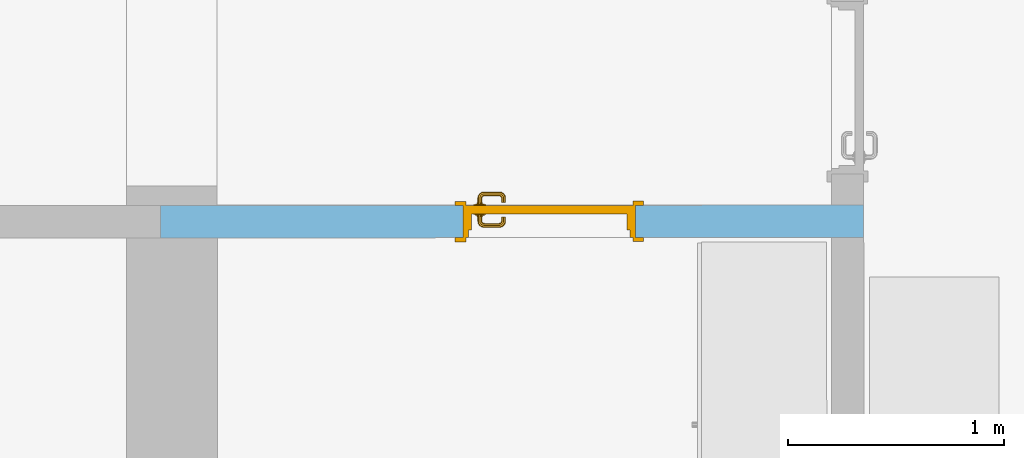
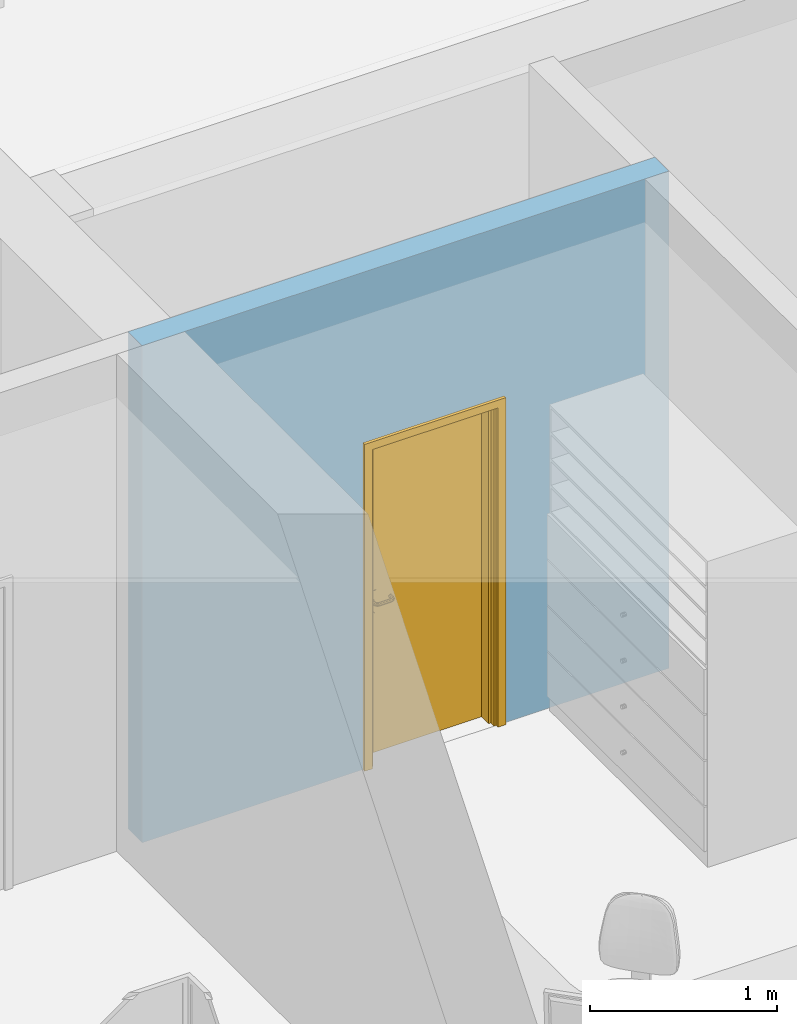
# One storey, part 64 of 194: 1 door, 1 opening, plus 1 element that does not belong to this part.
"""IFC2X3 building model written with IfcOpenShell, lengths in millimetres."""

from ifc_helpers import new_model, entity, si_unit, converted_unit, derived_unit, money_unit, direction, frame, origin_with_axes, origin_2d_with_axis, place, context, subcontext, project, spatial, polyline, rectangle, outline, extrude, open_shell, faceted_brep, surface_model, material, layer, layer_set, layer_usage, type_object, element, fill, save


model = new_model("IFC2X3")

# Units and contexts
model_context = context("Model", 3, precision=1e-05, world=origin_with_axes(), true_north=direction((0.0, 1.0)))
body_context = subcontext(model_context, "Body", "Model", "MODEL_VIEW")
ifc_project = project(units=[si_unit("LENGTHUNIT", "METRE", prefix="MILLI"), si_unit("AREAUNIT", "SQUARE_METRE"), si_unit("VOLUMEUNIT", "CUBIC_METRE"), converted_unit("PLANEANGLEUNIT", "DEGREE", entity("IfcPlaneAngleMeasure", 0.0174532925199), si_unit("PLANEANGLEUNIT", "RADIAN"), dimensions=[0, 0, 0, 0, 0, 0, 0]), si_unit("SOLIDANGLEUNIT", "STERADIAN"), money_unit("EUR"), converted_unit("TIMEUNIT", "Year", entity("IfcTimeMeasure", 31556926.0), si_unit("TIMEUNIT", "SECOND"), dimensions=[0, 0, 1, 0, 0, 0, 0]), si_unit("MASSUNIT", "GRAM", prefix="KILO"), si_unit("THERMODYNAMICTEMPERATUREUNIT", "DEGREE_CELSIUS"), si_unit("LUMINOUSINTENSITYUNIT", "LUMEN"), si_unit("ENERGYUNIT", "JOULE", prefix="MEGA"), derived_unit("THERMALCONDUCTANCEUNIT", [(si_unit("POWERUNIT", "WATT"), 1), (si_unit("LENGTHUNIT", "METRE"), -1), (si_unit("THERMODYNAMICTEMPERATUREUNIT", "KELVIN"), -1)]), derived_unit("SPECIFICHEATCAPACITYUNIT", [(si_unit("ENERGYUNIT", "JOULE"), 1), (si_unit("MASSUNIT", "GRAM", prefix="KILO"), -1), (si_unit("THERMODYNAMICTEMPERATUREUNIT", "KELVIN"), -1)]), derived_unit("MASSDENSITYUNIT", [(si_unit("MASSUNIT", "GRAM", prefix="KILO"), 1), (si_unit("VOLUMEUNIT", "CUBIC_METRE"), -1)])], contexts=[model_context])

# Site, building, storey
site_placement = place(None, origin_with_axes())
site = spatial("IfcSite", under=ifc_project, at=site_placement, Name="Site", CompositionType="ELEMENT")
building_placement = place(site_placement, origin_with_axes())
building = spatial("IfcBuilding", under=site, at=building_placement, Name="Building", CompositionType="ELEMENT")
storey_placement = place(building_placement, frame((0.0, 0.0, 3000.0), z_axis=(0.0, 0.0, 1.0), x_axis=(1.0, 0.0, 0.0)))
storey = spatial("IfcBuildingStorey", under=building, at=storey_placement, Name="2 KORRUS", CompositionType="ELEMENT", Elevation=3000.0)

# Wall, opening, door
ifc_material = material(Name="Kivi -Ol.Olev Konstruktsioon")
ifc_layer = layer(ifc_material, 150.0, ventilated="UNKNOWN")
ifc_layer_set = layer_set([ifc_layer], Name="ol.olev ss 150")
ifc_layer_usage = layer_usage(ifc_layer_set, "AXIS2", "POSITIVE", 0.0)
wall_type = type_object("IfcWallType", Name="SW - 022", PredefinedType="NOTDEFINED")
wall_placement = place(storey_placement, frame((87894.6853149, 39343.1535363, 0.0), z_axis=(0.0, 0.0, 1.0), x_axis=(0.999999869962, 0.000509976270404, 0.0)))
wall = element("IfcWallStandardCase", 1, at=wall_placement, inside=storey, type_object=wall_type, material=ifc_layer_usage, Name="ol.olev ss 150", context=body_context, shape_type="SweptSolid", body=[
    extrude(outline(polyline([(0.0, 0.0), (3257.511022, 9.09494701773e-10), (3257.511022, 150.000000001), (0.0, 150.000000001), (0.0, 0.0)])), origin_with_axes(), (0.0, 0.0, 1.0), 3250.0),
])
opening_placement = place(wall_placement, frame((1801.66666503, 0.0, 0.0), z_axis=(0.0, 0.0, 1.0), x_axis=(1.0, 0.0, 0.0)))
opening = element("IfcOpeningElement", 2, at=opening_placement, cuts=wall, Name="Siseuks * Door 22", context=body_context, shape_type="SweptSolid", body=[
    extrude(rectangle(XDim=800.0, YDim=2100.0, at=origin_2d_with_axis()), frame((2.27373675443e-10, -150.000000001, 1050.0), z_axis=(0.0, 1.0, 0.0), x_axis=(1.0, 0.0, 0.0)), (0.0, 0.0, 1.0), 450.000000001),
    extrude(rectangle(XDim=874.0, YDim=2137.0, at=origin_2d_with_axis()), frame((0.0, 0.0, 1068.5), z_axis=(0.0, 1.0, 0.0), x_axis=(1.0, 0.0, 0.0)), (0.0, 0.0, -1.0), 150.000000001),
    extrude(rectangle(XDim=874.0, YDim=2137.0, at=origin_2d_with_axis()), frame((0.0, 150.000000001, 1068.5), z_axis=(0.0, -1.0, 0.0), x_axis=(1.0, 0.0, 0.0)), (0.0, 0.0, -1.0), 150.000000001),
])
door_style = type_object("IfcDoorStyle", Name="SU-B243   800×2\xa0100", ConstructionType="NOTDEFINED", OperationType="SINGLE_SWING_RIGHT", ParameterTakesPrecedence=False, Sizeable=False)
door_placement = place(opening_placement, frame((-400.0, 0.0, 0.0), z_axis=(0.0, 0.0, 1.0), x_axis=(1.0, 0.0, 0.0)))
door = element("IfcDoor", 3, at=door_placement, inside=storey, type_object=door_style, Name="Siseuks * Door 22", OverallHeight=2100.0, OverallWidth=800.0, context=body_context, shape_type="SurfaceModel", body=[
    faceted_brep([(0.0, 35.0000000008, 0.0), (25.0000000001, 35.0000000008, 0.0), (25.0000000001, 9.09494701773e-10, 0.0), (0.0, 9.09494701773e-10, 0.0), (0.0, 35.0000000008, 2100.0), (25.0000000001, 35.0000000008, 2075.0), (25.0000000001, 9.09494701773e-10, 2075.0), (0.0, 9.09494701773e-10, 2100.0)], [[[0, 1, 2, 3]], [[0, 4, 5, 1]], [[1, 5, 6, 2]], [[3, 2, 6, 7]], [[4, 0, 3, 7]], [[5, 4, 7, 6]]]),
    faceted_brep([(800.0, 34.9999999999, 2100.0), (775.0, 35.0000000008, 2075.0), (775.0, 0.0, 2075.0), (800.0, 9.09494701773e-10, 2100.0), (800.0, 34.9999999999, 0.0), (775.0, 35.0000000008, 0.0), (775.0, 0.0, 0.0), (800.0, 9.09494701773e-10, 0.0)], [[[0, 1, 2, 3]], [[0, 4, 5, 1]], [[1, 5, 6, 2]], [[3, 2, 6, 7]], [[4, 0, 3, 7]], [[5, 4, 7, 6]]]),
    faceted_brep([(25.0000000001, 35.0000000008, 2075.0), (775.0, 35.0000000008, 2075.0), (775.0, 0.0, 2075.0), (25.0000000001, 9.09494701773e-10, 2075.0), (0.0, 35.0000000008, 2100.0), (800.0, 34.9999999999, 2100.0), (800.0, 9.09494701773e-10, 2100.0), (0.0, 9.09494701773e-10, 2100.0)], [[[0, 1, 2, 3]], [[0, 4, 5, 1]], [[1, 5, 6, 2]], [[3, 2, 6, 7]], [[4, 0, 3, 7]], [[5, 4, 7, 6]]]),
    faceted_brep([(-37.0, -19.0000000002, 0.0), (-36.9999999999, 9.09494701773e-10, 0.0), (12.9999999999, 9.09494701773e-10, 0.0), (13.0, -19.0000000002, 0.0), (-37.0, -19.0000000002, 2137.0), (-36.9999999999, 9.09494701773e-10, 2137.0), (12.9999999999, 9.09494701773e-10, 2087.0), (13.0, -19.0000000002, 2087.0)], [[[0, 1, 2, 3]], [[4, 5, 1, 0]], [[1, 5, 6, 2]], [[3, 2, 6, 7]], [[0, 3, 7, 4]], [[7, 6, 5, 4]]]),
    faceted_brep([(837.0, -19.0000000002, 2137.0), (837.0, 9.09494701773e-10, 2137.0), (787.0, 0.0, 2087.0), (787.0, -18.9999999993, 2087.0), (837.0, -19.0000000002, 0.0), (837.0, 9.09494701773e-10, 0.0), (787.0, 0.0, 0.0), (787.0, -18.9999999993, 0.0)], [[[0, 1, 2, 3]], [[4, 5, 1, 0]], [[1, 5, 6, 2]], [[3, 2, 6, 7]], [[0, 3, 7, 4]], [[7, 6, 5, 4]]]),
    faceted_brep([(-37.0, -19.0000000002, 2137.0), (-36.9999999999, 9.09494701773e-10, 2137.0), (12.9999999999, 9.09494701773e-10, 2087.0), (13.0, -19.0000000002, 2087.0), (837.0, -19.0000000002, 2137.0), (837.0, 9.09494701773e-10, 2137.0), (787.0, 0.0, 2087.0), (787.0, -18.9999999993, 2087.0)], [[[0, 1, 2, 3]], [[4, 5, 1, 0]], [[1, 5, 6, 2]], [[3, 2, 6, 7]], [[0, 3, 7, 4]], [[7, 6, 5, 4]]]),
    faceted_brep([(-37.0, 169.0, 0.0), (12.9999999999, 169.000000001, 0.0), (13.0, 150.0, 0.0), (-37.0, 150.000000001, 0.0), (-37.0, 169.0, 2137.0), (12.9999999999, 169.000000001, 2087.0), (13.0, 150.0, 2087.0), (-37.0, 150.000000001, 2137.0)], [[[0, 1, 2, 3]], [[0, 4, 5, 1]], [[1, 5, 6, 2]], [[3, 2, 6, 7]], [[4, 0, 3, 7]], [[5, 4, 7, 6]]]),
    faceted_brep([(837.0, 169.000000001, 2137.0), (787.0, 169.0, 2087.0), (787.0, 150.000000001, 2087.0), (837.0, 150.000000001, 2137.0), (837.0, 169.000000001, 0.0), (787.0, 169.0, 0.0), (787.0, 150.000000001, 0.0), (837.0, 150.000000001, 0.0)], [[[0, 1, 2, 3]], [[0, 4, 5, 1]], [[1, 5, 6, 2]], [[3, 2, 6, 7]], [[4, 0, 3, 7]], [[5, 4, 7, 6]]]),
    faceted_brep([(-37.0, 169.0, 2137.0), (12.9999999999, 169.000000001, 2087.0), (13.0, 150.0, 2087.0), (-37.0, 150.000000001, 2137.0), (837.0, 169.000000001, 2137.0), (787.0, 169.0, 2087.0), (787.0, 150.000000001, 2087.0), (837.0, 150.000000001, 2137.0)], [[[0, 1, 2, 3]], [[0, 4, 5, 1]], [[1, 5, 6, 2]], [[3, 2, 6, 7]], [[4, 0, 3, 7]], [[5, 4, 7, 6]]]),
    faceted_brep([(40.0, 110.0, 0.0), (40.0, 110.0, 2060.0), (40.0, 35.0000000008, 2060.0), (40.0, 35.0000000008, 0.0), (27.9999999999, 110.000000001, 2060.0), (27.9999999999, 110.000000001, 0.0), (28.0000000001, 150.000000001, 2060.0), (0.0, 150.0, 2060.0), (0.0, 35.0000000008, 2060.0), (0.0, 35.0000000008, 0.0), (0.0, 150.0, 0.0), (28.0000000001, 150.000000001, 0.0)], [[[0, 1, 2, 3]], [[4, 1, 0, 5]], [[4, 6, 7, 8, 2, 1]], [[3, 2, 8, 9]], [[5, 0, 3, 9, 10, 11]], [[6, 4, 5, 11]], [[6, 11, 10, 7]], [[10, 9, 8, 7]]]),
    faceted_brep([(772.0, 110.000000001, 2060.0), (760.0, 110.000000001, 2060.0), (760.0, 34.9999999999, 2060.0), (800.0, 34.9999999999, 2060.0), (800.0, 150.000000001, 2060.0), (772.0, 150.000000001, 2060.0), (772.0, 110.000000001, 0.0), (760.0, 110.000000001, 0.0), (760.0, 34.9999999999, 0.0), (800.0, 34.9999999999, 0.0), (800.0, 150.000000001, 0.0), (772.0, 150.000000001, 0.0)], [[[0, 1, 2, 3, 4, 5]], [[1, 0, 6, 7]], [[1, 7, 8, 2]], [[3, 2, 8, 9]], [[4, 3, 9, 10]], [[11, 5, 4, 10]], [[0, 5, 11, 6]], [[6, 11, 10, 9, 8, 7]]]),
    faceted_brep([(28.0000000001, 150.000000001, 2072.0), (28.0000000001, 150.000000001, 2060.0), (0.0, 150.0, 2060.0), (0.0, 150.0, 2100.0), (800.0, 150.000000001, 2100.0), (800.0, 150.000000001, 2060.0), (772.0, 150.000000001, 2060.0), (772.0, 150.000000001, 2072.0), (27.9999999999, 110.000000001, 2072.0), (27.9999999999, 110.000000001, 2060.0), (40.0, 110.0, 2060.0), (40.0, 35.0000000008, 2060.0), (0.0, 35.0000000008, 2060.0), (0.0, 35.0000000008, 2100.0), (800.0, 34.9999999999, 2100.0), (800.0, 34.9999999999, 2060.0), (772.0, 110.000000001, 2060.0), (760.0, 34.9999999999, 2060.0), (760.0, 110.000000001, 2060.0), (772.0, 110.000000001, 2072.0)], [[[0, 1, 2, 3, 4, 5, 6, 7]], [[1, 0, 8, 9]], [[9, 10, 11, 12, 2, 1]], [[2, 12, 13, 3]], [[3, 13, 14, 4]], [[4, 14, 15, 5]], [[16, 6, 5, 15, 17, 18]], [[7, 6, 16, 19]], [[0, 7, 19, 8]], [[16, 18, 10, 9, 8, 19]], [[10, 18, 17, 11]], [[17, 15, 14, 13, 12, 11]]]),
    faceted_brep([(49.5, 110.000000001, 1060.0), (49.5, 107.000000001, 1060.0), (106.5, 107.0, 1060.0), (106.5, 110.000000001, 1060.0), (49.5, 110.000000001, 870.0), (49.5, 107.000000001, 870.0), (106.5, 107.0, 870.0), (106.5, 110.000000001, 870.0)], [[[0, 1, 2, 3]], [[4, 5, 1, 0]], [[1, 5, 6, 2]], [[3, 2, 6, 7]], [[0, 3, 7, 4]], [[7, 6, 5, 4]]]),
    surface_model("IfcShellBasedSurfaceModel", [(88.0, 97.0000000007, 1000.0), (88.0000000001, 77.9849140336, 1000.0), (85.0710678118, 77.6964393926, 992.928932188), (85.0710678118, 97.0000000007, 992.928932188), (85.0710678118, 97.0000000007, 1007.07106781), (85.0710678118, 77.6964393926, 1007.07106781), (88.9422033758, 73.2481377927, 1000.0), (86.1832095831, 72.1053251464, 992.928932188), (78.0000000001, 77.0000000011, 990.0), (78.0, 96.9999999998, 990.0), (78.0, 96.9999999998, 1010.0), (78.0000000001, 77.0000000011, 1010.0), (86.1832095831, 72.1053251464, 1007.07106781), (91.0674625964, 70.0674625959, 1000.0), (88.9558201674, 67.9558201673, 992.928932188), (79.5224093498, 69.3463313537, 990.0), (70.9289321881, 76.3035606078, 992.928932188), (70.9289321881, 97.0000000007, 992.928932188), (70.9289321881, 97.0000000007, 1007.07106781), (70.9289321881, 76.3035606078, 1007.07106781), (79.5224093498, 69.3463313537, 1010.0), (88.9558201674, 67.9558201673, 1007.07106781), (94.2481377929, 67.9422033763, 1000.0), (93.1053251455, 65.1832095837, 992.928932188), (83.8578643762, 62.8578643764, 990.0), (72.8616091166, 66.5873375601, 992.928932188), (68.0, 76.0150859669, 1000.0), (68.0000000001, 97.0000000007, 1000.0), (72.8616091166, 66.5873375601, 1007.07106781), (83.8578643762, 62.8578643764, 1010.0), (93.1053251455, 65.1832095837, 1007.07106781), (98.9849140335, 67.0, 1000.0), (98.696439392, 64.0710678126, 992.928932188), (90.3463313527, 58.5224093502, 990.0), (78.7599085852, 57.7599085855, 992.928932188), (70.1026153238, 65.4445249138, 1000.0), (78.7599085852, 57.7599085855, 1007.07106781), (90.3463313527, 58.5224093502, 1010.0), (98.696439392, 64.0710678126, 1007.07106781), (167.015085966, 67.0, 1000.0), (167.303560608, 64.0710678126, 992.928932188), (98.0000000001, 56.9999999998, 990.0), (87.5873375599, 51.8616091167, 992.928932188), (76.6482661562, 55.6482661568, 1000.0), (87.5873375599, 51.8616091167, 1007.07106781), (98.0000000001, 56.9999999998, 1010.0), (167.303560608, 64.0710678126, 1007.07106781), (171.751862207, 67.9422033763, 1000.0), (172.894674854, 65.1832095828, 992.928932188), (168.0, 57.0000000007, 990.0), (97.303560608, 49.9289321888, 992.928932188), (86.4445249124, 49.102615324, 1000.0), (97.303560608, 49.9289321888, 1007.07106781), (168.0, 57.0000000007, 1010.0), (172.894674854, 65.1832095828, 1007.07106781), (174.932537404, 70.0674625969, 1000.0), (177.044179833, 67.9558201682, 992.928932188), (175.653668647, 58.5224093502, 990.0), (168.696439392, 49.9289321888, 992.928932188), (97.0150859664, 47.0000000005, 1000.0), (168.696439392, 49.9289321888, 1007.07106781), (175.653668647, 58.5224093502, 1010.0), (177.044179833, 67.9558201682, 1007.07106781), (177.057796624, 73.2481377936, 1000.0), (179.816790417, 72.1053251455, 992.928932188), (182.142135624, 62.8578643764, 990.0), (178.41266244, 51.8616091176, 992.928932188), (168.984914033, 47.0000000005, 1000.0), (178.41266244, 51.8616091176, 1007.07106781), (182.142135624, 62.8578643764, 1010.0), (179.816790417, 72.1053251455, 1007.07106781), (178.0, 77.9849140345, 1000.0), (180.928932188, 77.6964393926, 992.928932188), (186.47759065, 69.3463313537, 990.0), (187.240091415, 57.7599085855, 992.928932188), (179.555475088, 49.102615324, 1000.0), (187.240091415, 57.7599085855, 1007.07106781), (186.47759065, 69.3463313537, 1010.0), (180.928932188, 77.6964393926, 1007.07106781), (178.0, 96.9999999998, 1000.0), (180.928932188, 96.9999999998, 992.928932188), (188.0, 77.0000000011, 990.0), (193.138390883, 66.5873375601, 992.928932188), (189.351733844, 55.6482661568, 1000.0), (193.138390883, 66.5873375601, 1007.07106781), (188.0, 77.0000000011, 1010.0), (180.928932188, 96.9999999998, 1007.07106781), (188.0, 97.0000000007, 1010.0), (195.071067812, 97.0000000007, 1007.07106781), (198.0, 97.0000000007, 1000.0), (195.071067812, 97.0000000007, 992.928932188), (188.0, 97.0000000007, 990.0), (195.071067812, 76.3035606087, 992.928932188), (195.897384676, 65.444524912, 1000.0), (195.071067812, 76.3035606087, 1007.07106781), (198.0, 76.0150859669, 1000.0)], [open_shell([[[0, 1, 2, 3]], [[4, 5, 1, 0]], [[1, 6, 7, 2]], [[3, 2, 8, 9]], [[10, 11, 5, 4]], [[5, 12, 6, 1]], [[6, 13, 14, 7]], [[2, 7, 15, 8]], [[9, 8, 16, 17]], [[18, 19, 11, 10]], [[11, 20, 12, 5]], [[12, 21, 13, 6]], [[13, 22, 23, 14]], [[7, 14, 24, 15]], [[8, 15, 25, 16]], [[17, 16, 26, 27]], [[27, 26, 19, 18]], [[19, 28, 20, 11]], [[20, 29, 21, 12]], [[21, 30, 22, 13]], [[22, 31, 32, 23]], [[14, 23, 33, 24]], [[15, 24, 34, 25]], [[16, 25, 35, 26]], [[26, 35, 28, 19]], [[28, 36, 29, 20]], [[29, 37, 30, 21]], [[30, 38, 31, 22]], [[31, 39, 40, 32]], [[23, 32, 41, 33]], [[24, 33, 42, 34]], [[25, 34, 43, 35]], [[35, 43, 36, 28]], [[36, 44, 37, 29]], [[37, 45, 38, 30]], [[38, 46, 39, 31]], [[39, 47, 48, 40]], [[32, 40, 49, 41]], [[33, 41, 50, 42]], [[34, 42, 51, 43]], [[43, 51, 44, 36]], [[44, 52, 45, 37]], [[45, 53, 46, 38]], [[46, 54, 47, 39]], [[47, 55, 56, 48]], [[40, 48, 57, 49]], [[41, 49, 58, 50]], [[42, 50, 59, 51]], [[51, 59, 52, 44]], [[52, 60, 53, 45]], [[53, 61, 54, 46]], [[54, 62, 55, 47]], [[55, 63, 64, 56]], [[48, 56, 65, 57]], [[49, 57, 66, 58]], [[50, 58, 67, 59]], [[59, 67, 60, 52]], [[60, 68, 61, 53]], [[61, 69, 62, 54]], [[62, 70, 63, 55]], [[63, 71, 72, 64]], [[56, 64, 73, 65]], [[57, 65, 74, 66]], [[58, 66, 75, 67]], [[67, 75, 68, 60]], [[68, 76, 69, 61]], [[69, 77, 70, 62]], [[70, 78, 71, 63]], [[71, 79, 80, 72]], [[64, 72, 81, 73]], [[65, 73, 82, 74]], [[66, 74, 83, 75]], [[75, 83, 76, 68]], [[76, 84, 77, 69]], [[77, 85, 78, 70]], [[78, 86, 79, 71]], [[79, 86, 87, 88, 89, 90, 91, 80]], [[72, 80, 91, 81]], [[73, 81, 92, 82]], [[74, 82, 93, 83]], [[83, 93, 84, 76]], [[84, 94, 85, 77]], [[85, 87, 86, 78]], [[94, 88, 87, 85]], [[95, 89, 88, 94]], [[92, 90, 89, 95]], [[81, 91, 90, 92]], [[82, 92, 95, 93]], [[93, 95, 94, 84]]])]),
    faceted_brep([(88.3923048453, 97.0000000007, 994.0), (89.2583302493, 107.000000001, 993.5), (91.0, 107.000000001, 1000.0), (89.9999999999, 97.0000000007, 1000.0), (83.9999999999, 97.0000000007, 989.607695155), (84.4999999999, 107.000000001, 988.741669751), (78.0, 107.0, 987.0), (71.5, 107.0, 988.741669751), (66.7416697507, 107.0, 993.5), (65.0000000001, 107.0, 1000.0), (66.7416697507, 107.0, 1006.5), (71.5, 107.0, 1011.25833025), (78.0, 107.0, 1013.0), (84.4999999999, 107.000000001, 1011.25833025), (89.2583302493, 107.000000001, 1006.5), (88.3923048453, 97.0000000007, 1006.0), (83.9999999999, 97.0000000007, 1010.39230485), (78.0, 96.9999999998, 1012.0), (71.9999999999, 97.0000000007, 1010.39230485), (67.6076951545, 97.0000000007, 1006.0), (65.9999999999, 96.9999999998, 1000.0), (67.6076951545, 97.0000000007, 994.0), (71.9999999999, 97.0000000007, 989.607695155), (78.0, 96.9999999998, 988.0)], [[[0, 1, 2, 3]], [[4, 5, 1, 0]], [[2, 1, 5, 6, 7, 8, 9, 10, 11, 12, 13, 14]], [[3, 2, 14, 15]], [[3, 15, 16, 17, 18, 19, 20, 21, 22, 23, 4, 0]], [[23, 6, 5, 4]], [[22, 7, 6, 23]], [[21, 8, 7, 22]], [[20, 9, 8, 21]], [[19, 10, 9, 20]], [[18, 11, 10, 19]], [[17, 12, 11, 18]], [[16, 13, 12, 17]], [[15, 14, 13, 16]]]),
    faceted_brep([(95.3205080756, 103.0, 895.0), (97.0525588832, 107.0, 894.0), (100.0, 107.000000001, 905.0), (98.0, 103.0, 905.0), (88.0, 103.000000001, 887.679491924), (89.0000000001, 107.000000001, 885.947441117), (78.0, 107.0, 883.0), (66.9999999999, 107.0, 885.947441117), (58.9474411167, 107.0, 894.0), (55.9999999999, 107.0, 905.0), (58.9474411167, 107.0, 916.0), (66.9999999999, 107.0, 924.052558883), (78.0, 107.0, 927.0), (89.0000000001, 107.000000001, 924.052558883), (97.0525588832, 107.0, 916.0), (95.3205080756, 103.0, 915.0), (88.0, 103.000000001, 922.320508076), (78.0, 103.0, 925.0), (68.0, 103.0, 922.320508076), (60.6794919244, 103.000000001, 915.0), (58.0, 103.0, 905.0), (60.6794919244, 103.000000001, 895.0), (68.0, 103.0, 887.679491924), (78.0, 103.0, 885.0)], [[[0, 1, 2, 3]], [[4, 5, 1, 0]], [[2, 1, 5, 6, 7, 8, 9, 10, 11, 12, 13, 14]], [[3, 2, 14, 15]], [[3, 15, 16, 17, 18, 19, 20, 21, 22, 23, 4, 0]], [[23, 6, 5, 4]], [[22, 7, 6, 23]], [[21, 8, 7, 22]], [[20, 9, 8, 21]], [[19, 10, 9, 20]], [[18, 11, 10, 19]], [[17, 12, 11, 18]], [[16, 13, 12, 17]], [[15, 14, 13, 16]]]),
    faceted_brep([(82.9497474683, 101.000000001, 909.050252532), (83.6568542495, 103.0, 908.343145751), (85.9999999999, 103.000000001, 914.0), (84.9999999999, 101.000000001, 914.0), (78.0000000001, 101.000000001, 907.0), (78.0, 103.0, 906.0), (72.3431457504, 103.000000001, 908.343145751), (69.9999999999, 103.000000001, 914.0), (72.3431457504, 103.000000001, 919.656854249), (78.0, 103.0, 922.0), (83.6568542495, 103.0, 919.656854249), (82.9497474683, 101.000000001, 918.949747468), (78.0000000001, 101.000000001, 921.0), (73.0502525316, 101.000000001, 918.949747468), (70.9999999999, 101.000000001, 914.0), (73.0502525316, 101.000000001, 909.050252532)], [[[0, 1, 2, 3]], [[4, 5, 1, 0]], [[2, 1, 5, 6, 7, 8, 9, 10]], [[3, 2, 10, 11]], [[3, 11, 12, 13, 14, 15, 4, 0]], [[15, 6, 5, 4]], [[14, 7, 6, 15]], [[13, 8, 7, 14]], [[12, 9, 8, 13]], [[11, 10, 9, 12]]]),
    faceted_brep([(49.5, 150.000000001, 1060.0), (106.5, 150.000000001, 1060.0), (106.5, 153.0, 1060.0), (49.5, 153.0, 1060.0), (49.5, 150.000000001, 870.0), (106.5, 150.000000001, 870.0), (106.5, 153.0, 870.0), (49.5, 153.0, 870.0)], [[[0, 1, 2, 3]], [[0, 4, 5, 1]], [[1, 5, 6, 2]], [[3, 2, 6, 7]], [[4, 0, 3, 7]], [[5, 4, 7, 6]]]),
    surface_model("IfcShellBasedSurfaceModel", [(88.0, 163.0, 1000.0), (85.0710678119, 163.0, 992.928932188), (85.0710678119, 182.303560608, 992.928932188), (88.0, 182.015085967, 1000.0), (78.0000000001, 163.0, 990.0), (78.0, 183.0, 990.0), (86.1832095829, 187.894674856, 992.928932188), (88.9422033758, 186.751862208, 1000.0), (85.0710678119, 163.0, 1007.07106781), (85.0710678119, 182.303560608, 1007.07106781), (70.9289321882, 163.0, 992.928932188), (70.9289321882, 183.696439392, 992.928932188), (79.5224093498, 190.653668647, 990.0), (88.9558201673, 192.044179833, 992.928932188), (91.0674625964, 189.932537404, 1000.0), (86.1832095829, 187.894674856, 1007.07106781), (78.0000000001, 163.0, 1010.0), (78.0, 183.0, 1010.0), (68.0, 163.0, 1000.0), (67.9999999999, 183.984914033, 1000.0), (72.8616091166, 193.412662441, 992.928932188), (83.8578643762, 197.142135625, 990.0), (93.1053251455, 194.816790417, 992.928932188), (94.2481377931, 192.057796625, 1000.0), (88.9558201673, 192.044179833, 1007.07106781), (79.5224093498, 190.653668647, 1010.0), (70.9289321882, 163.0, 1007.07106781), (70.9289321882, 183.696439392, 1007.07106781), (70.1026153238, 194.555475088, 1000.0), (78.7599085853, 202.240091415, 992.928932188), (90.3463313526, 201.47759065, 990.0), (98.696439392, 195.928932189, 992.928932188), (98.9849140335, 193.000000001, 1000.0), (93.1053251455, 194.816790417, 1007.07106781), (83.8578643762, 197.142135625, 1010.0), (72.8616091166, 193.412662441, 1007.07106781), (76.6482661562, 204.351733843, 1000.0), (87.5873375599, 208.138390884, 992.928932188), (98.0000000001, 203.0, 990.0), (167.303560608, 195.928932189, 992.928932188), (167.015085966, 193.0, 1000.0), (98.696439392, 195.928932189, 1007.07106781), (90.3463313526, 201.47759065, 1010.0), (78.7599085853, 202.240091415, 1007.07106781), (86.4445249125, 210.897384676, 1000.0), (97.303560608, 210.071067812, 992.928932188), (168.0, 203.0, 990.0), (172.894674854, 194.816790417, 992.928932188), (171.751862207, 192.057796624, 1000.0), (167.303560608, 195.928932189, 1007.07106781), (98.0000000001, 203.0, 1010.0), (87.5873375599, 208.138390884, 1007.07106781), (97.0150859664, 213.0, 1000.0), (168.696439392, 210.071067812, 992.928932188), (175.653668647, 201.47759065, 990.0), (177.044179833, 192.044179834, 992.928932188), (174.932537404, 189.932537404, 1000.0), (172.894674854, 194.816790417, 1007.07106781), (168.0, 203.0, 1010.0), (97.303560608, 210.071067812, 1007.07106781), (168.984914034, 213.0, 1000.0), (178.41266244, 208.138390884, 992.928932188), (182.142135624, 197.142135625, 990.0), (179.816790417, 187.894674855, 992.928932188), (177.057796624, 186.751862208, 1000.0), (177.044179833, 192.044179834, 1007.07106781), (175.653668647, 201.47759065, 1010.0), (168.696439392, 210.071067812, 1007.07106781), (179.555475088, 210.897384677, 1000.0), (187.240091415, 202.240091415, 992.928932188), (186.47759065, 190.653668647, 990.0), (180.928932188, 182.303560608, 992.928932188), (178.0, 182.015085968, 1000.0), (179.816790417, 187.894674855, 1007.07106781), (182.142135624, 197.142135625, 1010.0), (178.41266244, 208.138390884, 1007.07106781), (189.351733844, 204.351733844, 1000.0), (193.138390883, 193.41266244, 992.928932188), (188.0, 183.0, 990.0), (180.928932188, 163.0, 992.928932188), (178.0, 163.0, 1000.0), (180.928932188, 182.303560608, 1007.07106781), (186.47759065, 190.653668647, 1010.0), (187.240091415, 202.240091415, 1007.07106781), (195.897384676, 194.555475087, 1000.0), (195.071067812, 183.696439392, 992.928932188), (188.0, 163.0, 990.0), (195.071067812, 163.0, 992.928932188), (198.0, 163.0, 1000.0), (195.071067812, 163.0, 1007.07106781), (188.0, 163.0, 1010.0), (180.928932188, 163.0, 1007.07106781), (188.0, 183.0, 1010.0), (193.138390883, 193.41266244, 1007.07106781), (198.0, 183.984914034, 1000.0), (195.071067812, 183.696439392, 1007.07106781)], [open_shell([[[0, 1, 2, 3]], [[1, 4, 5, 2]], [[3, 2, 6, 7]], [[8, 0, 3, 9]], [[4, 10, 11, 5]], [[2, 5, 12, 6]], [[7, 6, 13, 14]], [[9, 3, 7, 15]], [[16, 8, 9, 17]], [[10, 18, 19, 11]], [[5, 11, 20, 12]], [[6, 12, 21, 13]], [[14, 13, 22, 23]], [[15, 7, 14, 24]], [[17, 9, 15, 25]], [[26, 16, 17, 27]], [[18, 26, 27, 19]], [[11, 19, 28, 20]], [[12, 20, 29, 21]], [[13, 21, 30, 22]], [[23, 22, 31, 32]], [[24, 14, 23, 33]], [[25, 15, 24, 34]], [[27, 17, 25, 35]], [[19, 27, 35, 28]], [[20, 28, 36, 29]], [[21, 29, 37, 30]], [[22, 30, 38, 31]], [[32, 31, 39, 40]], [[33, 23, 32, 41]], [[34, 24, 33, 42]], [[35, 25, 34, 43]], [[28, 35, 43, 36]], [[29, 36, 44, 37]], [[30, 37, 45, 38]], [[31, 38, 46, 39]], [[40, 39, 47, 48]], [[41, 32, 40, 49]], [[42, 33, 41, 50]], [[43, 34, 42, 51]], [[36, 43, 51, 44]], [[37, 44, 52, 45]], [[38, 45, 53, 46]], [[39, 46, 54, 47]], [[48, 47, 55, 56]], [[49, 40, 48, 57]], [[50, 41, 49, 58]], [[51, 42, 50, 59]], [[44, 51, 59, 52]], [[45, 52, 60, 53]], [[46, 53, 61, 54]], [[47, 54, 62, 55]], [[56, 55, 63, 64]], [[57, 48, 56, 65]], [[58, 49, 57, 66]], [[59, 50, 58, 67]], [[52, 59, 67, 60]], [[53, 60, 68, 61]], [[54, 61, 69, 62]], [[55, 62, 70, 63]], [[64, 63, 71, 72]], [[65, 56, 64, 73]], [[66, 57, 65, 74]], [[67, 58, 66, 75]], [[60, 67, 75, 68]], [[61, 68, 76, 69]], [[62, 69, 77, 70]], [[63, 70, 78, 71]], [[72, 71, 79, 80]], [[73, 64, 72, 81]], [[74, 65, 73, 82]], [[75, 66, 74, 83]], [[68, 75, 83, 76]], [[69, 76, 84, 77]], [[70, 77, 85, 78]], [[71, 78, 86, 79]], [[80, 79, 86, 87, 88, 89, 90, 91]], [[81, 72, 80, 91]], [[82, 73, 81, 92]], [[83, 74, 82, 93]], [[76, 83, 93, 84]], [[77, 84, 94, 85]], [[78, 85, 87, 86]], [[85, 94, 88, 87]], [[94, 95, 89, 88]], [[95, 92, 90, 89]], [[92, 81, 91, 90]], [[93, 82, 92, 95]], [[84, 93, 95, 94]]])]),
    faceted_brep([(88.3923048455, 163.0, 994.0), (90.0, 163.0, 1000.0), (91.0, 153.000000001, 1000.0), (89.2583302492, 153.000000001, 993.5), (84.0000000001, 163.0, 989.607695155), (78.0000000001, 163.0, 988.0), (72.0, 163.0, 989.607695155), (67.6076951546, 163.0, 994.0), (66.0, 163.0, 1000.0), (67.6076951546, 163.0, 1006.0), (72.0, 163.0, 1010.39230485), (78.0000000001, 163.0, 1012.0), (84.0000000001, 163.0, 1010.39230485), (88.3923048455, 163.0, 1006.0), (89.2583302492, 153.000000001, 1006.5), (84.4999999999, 153.000000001, 1011.25833025), (78.0, 153.0, 1013.0), (71.5, 153.0, 1011.25833025), (66.7416697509, 153.0, 1006.5), (65.0000000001, 152.999999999, 1000.0), (66.7416697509, 153.0, 993.5), (71.5, 153.0, 988.741669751), (78.0, 153.0, 987.0), (84.4999999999, 153.000000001, 988.741669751)], [[[0, 1, 2, 3]], [[1, 0, 4, 5, 6, 7, 8, 9, 10, 11, 12, 13]], [[1, 13, 14, 2]], [[2, 14, 15, 16, 17, 18, 19, 20, 21, 22, 23, 3]], [[4, 0, 3, 23]], [[5, 4, 23, 22]], [[6, 5, 22, 21]], [[7, 6, 21, 20]], [[8, 7, 20, 19]], [[9, 8, 19, 18]], [[10, 9, 18, 17]], [[11, 10, 17, 16]], [[12, 11, 16, 15]], [[13, 12, 15, 14]]]),
    faceted_brep([(95.3205080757, 156.999999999, 895.0), (98.0000000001, 157.0, 905.0), (100.0, 153.000000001, 905.0), (97.0525588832, 153.0, 894.0), (88.0, 157.000000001, 887.679491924), (78.0, 157.0, 885.0), (68.0, 157.0, 887.679491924), (60.6794919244, 157.0, 895.0), (58.0, 157.000000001, 905.0), (60.6794919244, 157.0, 915.0), (68.0, 157.0, 922.320508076), (78.0, 157.0, 925.0), (88.0, 157.000000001, 922.320508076), (95.3205080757, 156.999999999, 915.0), (97.0525588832, 153.0, 916.0), (89.0000000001, 153.0, 924.052558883), (78.0, 153.0, 927.0), (67.0, 153.0, 924.052558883), (58.9474411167, 153.0, 916.0), (55.9999999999, 153.0, 905.0), (58.9474411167, 153.0, 894.0), (67.0, 153.0, 885.947441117), (78.0, 153.0, 883.0), (89.0000000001, 153.0, 885.947441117)], [[[0, 1, 2, 3]], [[1, 0, 4, 5, 6, 7, 8, 9, 10, 11, 12, 13]], [[1, 13, 14, 2]], [[2, 14, 15, 16, 17, 18, 19, 20, 21, 22, 23, 3]], [[4, 0, 3, 23]], [[5, 4, 23, 22]], [[6, 5, 22, 21]], [[7, 6, 21, 20]], [[8, 7, 20, 19]], [[9, 8, 19, 18]], [[10, 9, 18, 17]], [[11, 10, 17, 16]], [[12, 11, 16, 15]], [[13, 12, 15, 14]]]),
    faceted_brep([(82.9497474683, 159.0, 909.050252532), (85.0, 159.000000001, 914.0), (86.0, 157.0, 914.0), (83.6568542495, 157.0, 908.343145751), (78.0, 159.000000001, 907.0), (73.0502525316, 159.000000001, 909.050252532), (71.0, 159.000000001, 914.0), (73.0502525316, 159.000000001, 918.949747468), (78.0, 159.000000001, 921.0), (82.9497474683, 159.0, 918.949747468), (83.6568542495, 157.0, 919.656854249), (78.0, 157.0, 922.0), (72.3431457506, 157.000000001, 919.656854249), (70.0000000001, 157.0, 914.0), (72.3431457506, 157.000000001, 908.343145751), (78.0, 157.0, 906.0)], [[[0, 1, 2, 3]], [[1, 0, 4, 5, 6, 7, 8, 9]], [[1, 9, 10, 2]], [[2, 10, 11, 12, 13, 14, 15, 3]], [[4, 0, 3, 15]], [[5, 4, 15, 14]], [[6, 5, 14, 13]], [[7, 6, 13, 12]], [[8, 7, 12, 11]], [[9, 8, 11, 10]]]),
    faceted_brep([(772.0, 150.000000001, 0.0), (772.0, 110.000000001, 0.0), (27.9999999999, 110.000000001, 0.0), (28.0000000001, 150.000000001, 0.0), (772.0, 150.000000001, 2072.0), (772.0, 110.000000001, 2072.0), (27.9999999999, 110.000000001, 2072.0), (28.0000000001, 150.000000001, 2072.0)], [[[0, 1, 2, 3]], [[4, 5, 1, 0]], [[1, 5, 6, 2]], [[3, 2, 6, 7]], [[0, 3, 7, 4]], [[7, 6, 5, 4]]]),
])
fill(opening, door)

save(model, "model.ifc")
